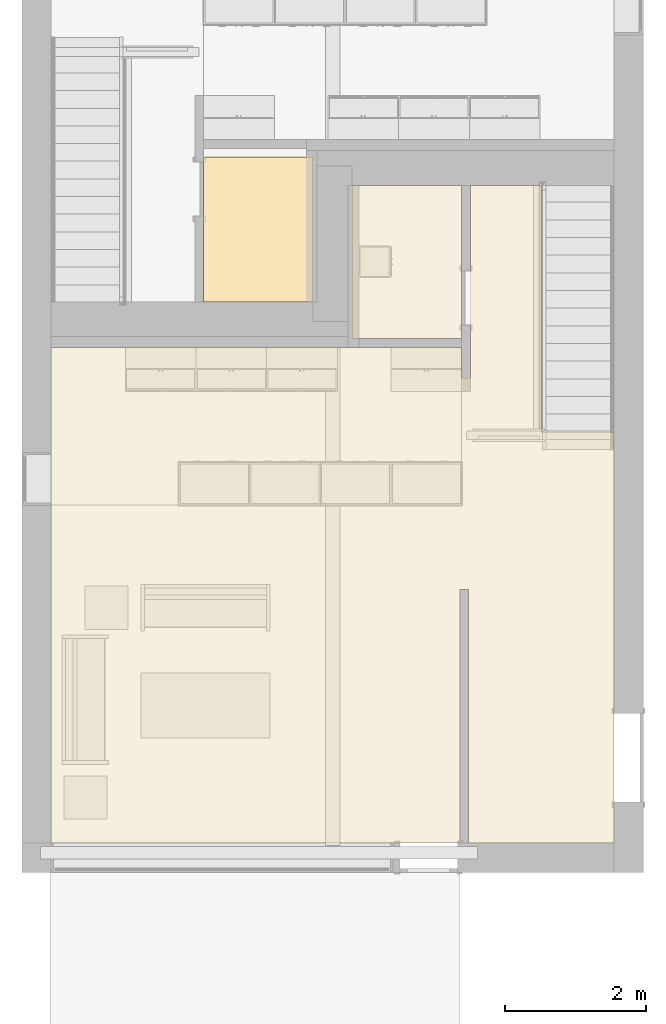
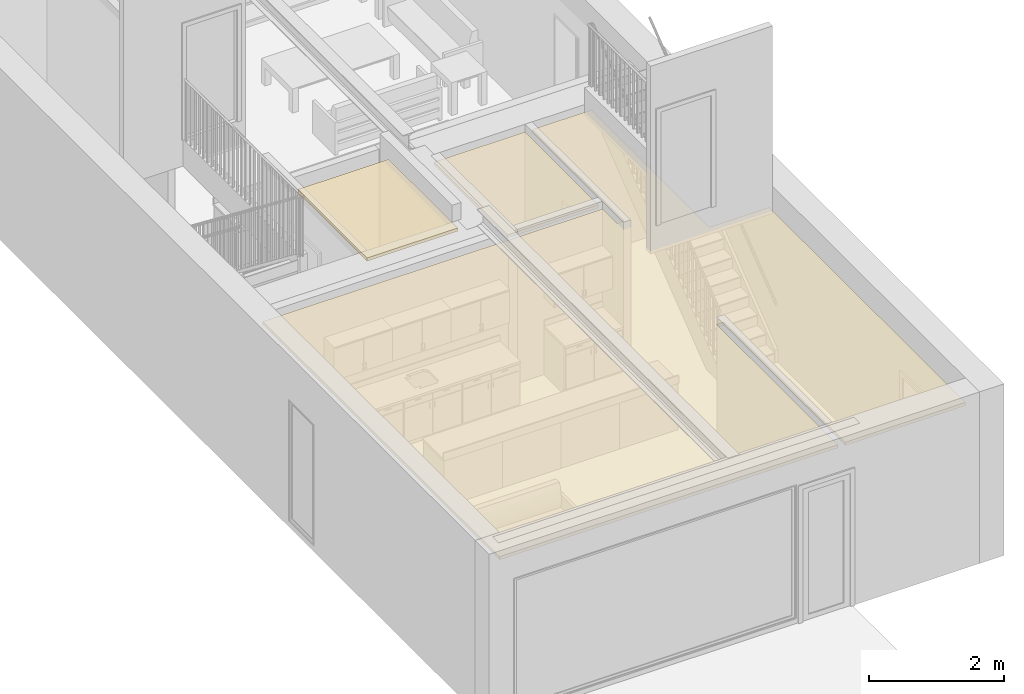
# One storey, part 6 of 18: 4 coverings.
"""IFC4 building model written with IfcOpenShell, lengths in metres."""

import ifcopenshell
import ifcopenshell.guid

model = None  # the IFC model being written
_history = None  # IfcOwnerHistory: only IFC2X3 demands one
_inside = {}  # id of a spatial element -> (the spatial element, [elements in it])
_under = {}  # id of a project, library or spatial element -> (it, [spatial elements below it])
_declared = {}  # id of a project -> (the project, [libraries it declares])
_typed = {}  # id of a type object -> (the type object, [elements of that type])
_made_of = {}  # id of a material, layer set ... -> (it, [elements and type objects made of it])


def new_model(schema):
    """Start an empty IFC model of exactly this schema.

    Asked for "IFC4X3", IfcOpenShell would pick the latest addendum, in which some entities
    have other attributes; the version numbers below select the first issue.
    IFC2X3 requires an IfcOwnerHistory on every rooted entity: one is made here for all.
    """
    global model, _history
    if schema == "IFC4X3":
        model = ifcopenshell.file(schema_version=(4, 3, 0, 0))
    else:
        model = ifcopenshell.file(schema=schema)
    _inside.clear()
    _under.clear()
    _declared.clear()
    _typed.clear()
    _made_of.clear()
    _history = None
    if model.schema == "IFC2X3":
        org = make("IfcOrganization", Name="unknown")
        user = make(
            "IfcPersonAndOrganization",
            ThePerson=make("IfcPerson", FamilyName="unknown"),
            TheOrganization=org,
        )
        app = make(
            "IfcApplication",
            ApplicationDeveloper=org,
            Version="unknown",
            ApplicationFullName="unknown",
            ApplicationIdentifier="unknown",
        )
        _history = make(
            "IfcOwnerHistory",
            OwningUser=user,
            OwningApplication=app,
            ChangeAction="ADDED",
            CreationDate=0,
        )
    return model


def make(cls, **values):
    """One entity of the class cls with the attributes given. An attribute that is None is left unset."""
    return model.create_entity(
        cls, **{name: value for name, value in values.items() if value is not None}
    )


def entity(cls, *values):
    """Any entity or typed value of the class cls, its attributes in the order of the schema. None: left unset."""
    e = model.create_entity(cls)
    for i, value in enumerate(values):
        if value is not None:
            e[i] = value
    return e


def rooted(cls, **values):
    """An entity with a GlobalId (a new one), such as an element, a storey or a relation."""
    return make(cls, GlobalId=ifcopenshell.guid.new(), OwnerHistory=_history, **values)


def si_unit(unit_type, name, prefix=None):
    """IfcSIUnit, for example si_unit("LENGTHUNIT", "METRE", prefix="MILLI")."""
    return make("IfcSIUnit", UnitType=unit_type, Prefix=prefix, Name=name)


def converted_unit(unit_type, name, factor, base, dimensions=None, offset=None):
    """IfcConversionBasedUnit, such as the inch: factor (a typed value) times the base unit."""
    return make(
        "IfcConversionBasedUnit"
        if offset is None
        else "IfcConversionBasedUnitWithOffset",
        ConversionOffset=offset,
        Dimensions=None
        if dimensions is None
        else entity("IfcDimensionalExponents", *dimensions),
        UnitType=unit_type,
        Name=name,
        ConversionFactor=make(
            "IfcMeasureWithUnit", ValueComponent=factor, UnitComponent=base
        ),
    )


def assignment(units):
    """IfcUnitAssignment: the units of a project."""
    return None if units is None else make("IfcUnitAssignment", Units=units)


def point(xyz):
    """IfcCartesianPoint."""
    return None if xyz is None else make("IfcCartesianPoint", Coordinates=xyz)


def direction(xyz):
    """IfcDirection."""
    return None if xyz is None else make("IfcDirection", DirectionRatios=xyz)


def frame(location, z_axis=None, x_axis=None):
    """IfcAxis2Placement3D, a coordinate frame: its origin and axes. An axis left out is left unset."""
    return make(
        "IfcAxis2Placement3D",
        Location=point(location),
        Axis=direction(z_axis),
        RefDirection=direction(x_axis),
    )


def origin():
    """The frame at (0, 0, 0) with its axes left unset."""
    return frame((0.0, 0.0, 0.0))


def place(relative_to, where):
    """IfcLocalPlacement: puts the frame where relative to a parent placement (None: the world)."""
    return make(
        "IfcLocalPlacement", PlacementRelTo=relative_to, RelativePlacement=where
    )


def context(
    kind, dimensions, precision=None, world=None, true_north=None, identifier=None
):
    """IfcGeometricRepresentationContext, for example the 3D "Model" context."""
    return make(
        "IfcGeometricRepresentationContext",
        ContextIdentifier=identifier,
        ContextType=kind,
        CoordinateSpaceDimension=dimensions,
        Precision=precision,
        WorldCoordinateSystem=world,
        TrueNorth=true_north,
    )


def project(units=None, contexts=None):
    """IfcProject with its units and contexts."""
    return rooted(
        "IfcProject",
        Name="project",
        RepresentationContexts=contexts,
        UnitsInContext=assignment(units),
    )


def spatial(cls, under=None, at=None, **own):
    """A site, building, storey or space (cls), placed at a placement, below another one or the project."""
    s = rooted(cls, ObjectPlacement=at, **own)
    if under is not None:
        _under.setdefault(under.id(), (under, []))[1].append(s)
    return s


def faces_of(points, faces, orient=None, outer=None):
    """IfcFace entities. A face is a list of loops; a loop is a list of indices into points, from 0.

    orient and outer hold one flag for each loop. By default every Orientation is true, the
    first loop of a face is its IfcFaceOuterBound and the others are IfcFaceBound.
    """
    made = []
    for i, loops in enumerate(faces):
        bounds = []
        for j, loop in enumerate(loops):
            is_outer = j == 0 if outer is None else outer[i][j]
            bounds.append(
                make(
                    "IfcFaceOuterBound" if is_outer else "IfcFaceBound",
                    Bound=make("IfcPolyLoop", Polygon=[points[k] for k in loop]),
                    Orientation=True if orient is None else orient[i][j],
                )
            )
        made.append(make("IfcFace", Bounds=bounds))
    return made


def face_set(faces, orient=None, outer=None):
    """The faces of one IfcConnectedFaceSet. surface_model builds it on its shared points."""
    return ("IfcConnectedFaceSet", faces, orient, outer)


def surface_model(cls, points, shells):
    """IfcFaceBasedSurfaceModel or IfcShellBasedSurfaceModel (cls): surfaces that need not close."""
    shared = [point(p) for p in points]
    made = [make(c, CfsFaces=faces_of(shared, fs, o, b)) for c, fs, o, b in shells]
    if cls == "IfcFaceBasedSurfaceModel":
        return make(cls, FbsmFaces=made)
    return make(cls, SbsmBoundary=made)


def shape(context_of_items, identifier, shape_type, items):
    """IfcShapeRepresentation: the items that make up one representation, for example the "Body"."""
    return make(
        "IfcShapeRepresentation",
        ContextOfItems=context_of_items,
        RepresentationIdentifier=identifier,
        RepresentationType=shape_type,
        Items=items,
    )


def material(Name=None, Category=None):
    """IfcMaterial."""
    return make("IfcMaterial", Name=Name, Category=Category)


def layer(
    of_material, thickness, ventilated=None, Name=None, Category=None, Priority=None
):
    """IfcMaterialLayer: one layer of a wall or slab, of a material (None: an air gap)."""
    return make(
        "IfcMaterialLayer",
        Material=of_material,
        LayerThickness=thickness,
        IsVentilated=ventilated,
        Name=Name,
        Category=Category,
        Priority=Priority,
    )


def layer_set(layers, Name=None):
    """IfcMaterialLayerSet."""
    return make("IfcMaterialLayerSet", MaterialLayers=layers, LayerSetName=Name)


def layer_usage(for_layer_set, set_direction, sense, offset, extent=None):
    """IfcMaterialLayerSetUsage: how a layer set lies in its element."""
    return make(
        "IfcMaterialLayerSetUsage",
        ForLayerSet=for_layer_set,
        LayerSetDirection=set_direction,
        DirectionSense=sense,
        OffsetFromReferenceLine=offset,
        ReferenceExtent=extent,
    )


def made_of(thing, what):
    """Note that an element or type object is made of a material, layer set ...; save() writes the relation."""
    if what is not None:
        _made_of.setdefault(what.id(), (what, []))[1].append(thing)
    return thing


def element(
    cls,
    number,
    at=None,
    inside=None,
    cuts=None,
    type_object=None,
    material=None,
    context=None,
    identifier="Body",
    shape_type=None,
    held_by="IfcProductDefinitionShape",
    body=None,
    shapes=None,
    **own,
):
    """One element of the class cls, such as IfcWall. Its Tag is "e" and its number.

    at: its placement. inside: the storey or other place that contains it. cuts: it is an
    opening in that element (IfcRelVoidsElement). A single representation is given by context,
    identifier, shape_type and body (its items); several are given by shapes. held_by: the class
    of the entity that holds the representations. save() writes the other relations.
    """
    e = rooted(cls, Tag="e%d" % number, ObjectPlacement=at, **own)
    if body is not None:
        shapes = [shape(context, identifier, shape_type, body)]
    if shapes is not None:
        e.Representation = make(held_by, Representations=shapes)
    if inside is not None:
        _inside.setdefault(inside.id(), (inside, []))[1].append(e)
    if cuts is not None:
        rooted(
            "IfcRelVoidsElement", RelatingBuildingElement=cuts, RelatedOpeningElement=e
        )
    if type_object is not None:
        _typed.setdefault(type_object.id(), (type_object, []))[1].append(e)
    return made_of(e, material)


def aggregate(whole, parts):
    """IfcRelAggregates: a whole, such as a stair, and the parts it consists of."""
    return rooted("IfcRelAggregates", RelatingObject=whole, RelatedObjects=parts)


def save(model, path):
    """Write the relations noted so far, then the file.

    IfcRelAggregates (storeys below a building ...), IfcRelContainedInSpatialStructure (elements
    in a storey), IfcRelDefinesByType, IfcRelAssociatesMaterial and IfcRelDeclares: one each for
    every whole, place, type object, material and project.
    """
    for whole, parts in _under.values():
        aggregate(whole, parts)
    for where, things in _inside.values():
        rooted(
            "IfcRelContainedInSpatialStructure",
            RelatedElements=things,
            RelatingStructure=where,
        )
    for kind, things in _typed.values():
        rooted("IfcRelDefinesByType", RelatedObjects=things, RelatingType=kind)
    for what, things in _made_of.values():
        rooted("IfcRelAssociatesMaterial", RelatedObjects=things, RelatingMaterial=what)
    for by, libraries in _declared.values():
        rooted("IfcRelDeclares", RelatingContext=by, RelatedDefinitions=libraries)
    model.write(path)


model = new_model("IFC4")

# Units and contexts
model_context = context("Model", 3, precision=1e-09, world=origin())
plan_context = context("Plan", 3, precision=1e-09, world=origin())
ifc_project = project(units=[si_unit("LENGTHUNIT", "METRE"), si_unit("AREAUNIT", "SQUARE_METRE"), si_unit("VOLUMEUNIT", "CUBIC_METRE"), converted_unit("PLANEANGLEUNIT", "DEGREE", entity("IfcRatioMeasure", 0.01745329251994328), si_unit("PLANEANGLEUNIT", "RADIAN"), dimensions=[0, 0, 0, 0, 0, 0, 0]), si_unit("TIMEUNIT", "SECOND")], contexts=[model_context, plan_context])

# Site, building, storey
site_placement = place(None, origin())
site = spatial("IfcSite", under=ifc_project, at=site_placement, Name="Default", CompositionType="ELEMENT")
building_placement = place(site_placement, origin())
building = spatial("IfcBuilding", under=site, at=building_placement, CompositionType="ELEMENT")
storey_placement = place(building_placement, origin())
storey = spatial("IfcBuildingStorey", under=building, at=storey_placement, Name="Level 1", CompositionType="ELEMENT", Elevation=0.0)

# Coverings
ifc_material_1 = material(Name="Metal - Stud Layer")
ifc_layer_1 = layer(ifc_material_1, 0.045)
ifc_material_2 = material(Name="Plasterboard")
ifc_layer_2 = layer(ifc_material_2, 0.012)
ifc_layer_set = layer_set([ifc_layer_1, ifc_layer_2], Name="Compound Ceiling:Gypsum Board")
ifc_layer_usage_1 = layer_usage(ifc_layer_set, "AXIS3", "NEGATIVE", 0.0)
covering_1_placement = place(storey_placement, origin())
element("IfcCovering", 1, at=covering_1_placement, inside=storey, material=ifc_layer_usage_1, Name="Compound Ceiling:Gypsum Board", ObjectType="Compound Ceiling:Gypsum Board", PredefinedType="CEILING", context=model_context, shape_type="SurfaceModel", body=[
    surface_model("IfcFaceBasedSurfaceModel", [(6.225999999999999, -10.37000000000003, 2.657), (6.225999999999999, -10.8, 2.657), (6.349999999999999, -10.8, 2.657), (6.350000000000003, -8.074999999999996, 2.657), (7.358599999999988, -8.075, 2.657), (7.358599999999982, -11.566, 2.657), (8.382999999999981, -11.566, 2.657), (8.382999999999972, -17.383, 2.657), (6.323999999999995, -17.38299999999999, 2.657), (6.324000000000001, -13.8, 2.657), (6.2, -13.8, 2.657), (6.199999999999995, -17.38299999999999, 2.657), (0.4169999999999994, -17.38299999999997, 2.657), (0.4169999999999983, -10.37000000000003, 2.657), (6.225999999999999, -10.37000000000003, 2.6), (0.4169999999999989, -10.37000000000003, 2.6), (0.4169999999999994, -17.38299999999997, 2.6), (6.199999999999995, -17.38299999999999, 2.6), (6.2, -13.8, 2.6), (6.324000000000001, -13.8, 2.6), (6.323999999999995, -17.38299999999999, 2.6), (8.382999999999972, -17.383, 2.6), (8.382999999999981, -11.566, 2.6), (7.358599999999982, -11.566, 2.6), (7.358599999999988, -8.075, 2.6), (6.350000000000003, -8.074999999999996, 2.6), (6.349999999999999, -10.8, 2.6), (6.225999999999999, -10.8, 2.6)], [face_set([[[0, 1, 2, 3, 4, 5, 6, 7, 8, 9, 10, 11, 12, 13]], [[14, 15, 16, 17, 18, 19, 20, 21, 22, 23, 24, 25, 26, 27]], [[13, 0, 14, 15]], [[12, 13, 15, 16]], [[11, 17, 16, 12]], [[10, 18, 17, 11]], [[9, 19, 18, 10]], [[8, 9, 19, 20]], [[7, 21, 20, 8]], [[6, 22, 21, 7]], [[5, 6, 22, 23]], [[4, 24, 23, 5]], [[3, 4, 24, 25]], [[2, 3, 25, 26]], [[1, 2, 26, 27]], [[0, 14, 27, 1]]])]),
])
ifc_layer_usage_2 = layer_usage(ifc_layer_set, "AXIS3", "NEGATIVE", 0.0)
covering_2_placement = place(storey_placement, origin())
element("IfcCovering", 2, at=covering_2_placement, inside=storey, material=ifc_layer_usage_2, Name="Compound Ceiling:Gypsum Board", ObjectType="Compound Ceiling:Gypsum Board", PredefinedType="CEILING", context=model_context, shape_type="SurfaceModel", body=[
    surface_model("IfcFaceBasedSurfaceModel", [(2.573999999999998, -9.725000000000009, 2.657), (2.574000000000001, -7.676999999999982, 2.657), (4.125000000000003, -7.676999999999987, 2.657), (4.124999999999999, -9.725000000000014, 2.657), (2.573999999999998, -9.725000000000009, 2.6), (2.574000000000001, -7.676999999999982, 2.6), (4.125000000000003, -7.676999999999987, 2.6), (4.124999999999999, -9.725000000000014, 2.6)], [face_set([[[0, 1, 2, 3]], [[4, 5, 6, 7]], [[3, 7, 4, 0]], [[2, 6, 7, 3]], [[1, 2, 6, 5]], [[0, 1, 5, 4]]])]),
])
ifc_layer_usage_3 = layer_usage(ifc_layer_set, "AXIS3", "NEGATIVE", 0.0)
covering_3_placement = place(storey_placement, origin())
element("IfcCovering", 3, at=covering_3_placement, inside=storey, material=ifc_layer_usage_3, Name="Compound Ceiling:Gypsum Board", ObjectType="Compound Ceiling:Gypsum Board", PredefinedType="CEILING", context=model_context, shape_type="SurfaceModel", body=[
    surface_model("IfcFaceBasedSurfaceModel", [(2.573999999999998, -9.725000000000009, 2.657), (2.574000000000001, -7.676999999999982, 2.657), (4.125000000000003, -7.676999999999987, 2.657), (4.124999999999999, -9.725000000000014, 2.657), (2.573999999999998, -9.725000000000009, 2.6), (2.574000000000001, -7.676999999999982, 2.6), (4.125000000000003, -7.676999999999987, 2.6), (4.124999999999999, -9.725000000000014, 2.6)], [face_set([[[0, 1, 2, 3]], [[4, 5, 6, 7]], [[3, 7, 4, 0]], [[2, 6, 7, 3]], [[1, 2, 6, 5]], [[0, 1, 5, 4]]])]),
])
ifc_layer_usage_4 = layer_usage(ifc_layer_set, "AXIS3", "NEGATIVE", 0.0)
covering_4_placement = place(storey_placement, origin())
element("IfcCovering", 4, at=covering_4_placement, inside=storey, material=ifc_layer_usage_4, Name="Compound Ceiling:Gypsum Board", ObjectType="Compound Ceiling:Gypsum Board", PredefinedType="CEILING", context=model_context, shape_type="SurfaceModel", body=[
    surface_model("IfcFaceBasedSurfaceModel", [(4.675000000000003, -8.07499999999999, 2.657), (6.226000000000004, -8.074999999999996, 2.657), (6.226, -10.24600000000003, 2.657), (4.674999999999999, -10.24600000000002, 2.657), (4.675000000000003, -8.07499999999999, 2.6), (6.226000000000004, -8.074999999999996, 2.6), (6.226, -10.24600000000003, 2.6), (4.674999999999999, -10.24600000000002, 2.6)], [face_set([[[0, 1, 2, 3]], [[4, 5, 6, 7]], [[3, 0, 4, 7]], [[2, 6, 7, 3]], [[1, 5, 6, 2]], [[0, 1, 5, 4]]])]),
])

save(model, "model.ifc")
